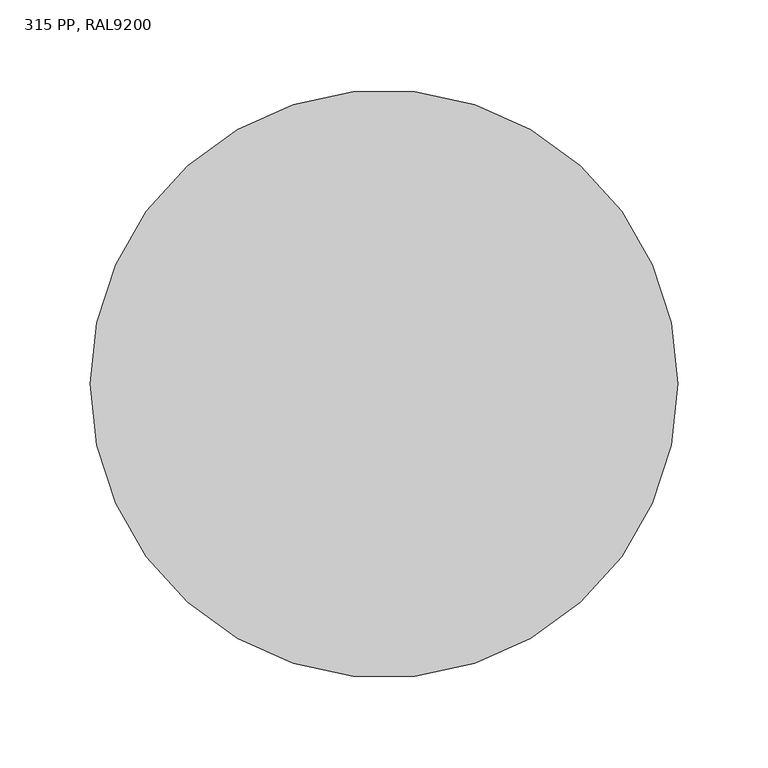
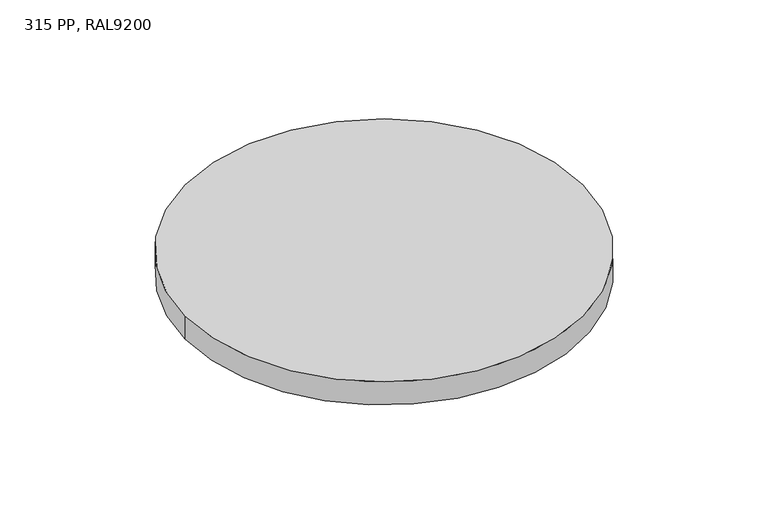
"""IFC4 building model written with IfcOpenShell, lengths in millimetres: pipe fitting geometry, Z_PIF_UN_Aquacell_NG_Round_Cover_Wavin_(nested) : 315 PP, RAL9200."""

from ifc_helpers import new_model, si_unit, point, frame, origin, origin_2d, place, context, project, spatial, circle_curve, trimmed, segment, composite_curve, outline, extrude, source, transform, mapped, element, save


def pipe_fitting_315_pp_ral9200_0fd825c0(model_context):
    return source(origin(), model_context, "Body", "SweptSolid", [
        extrude(outline(composite_curve([segment(trimmed(circle_curve(origin_2d(), 162.5), [point((-162.5, 0.0))], [point((162.5, 0.0))], False, "CARTESIAN"), True, "CONTINUOUS"), segment(trimmed(circle_curve(origin_2d(), 162.5), [point((162.5, 0.0))], [point((-162.5, 0.0))], False, "CARTESIAN"), True, "CONTINUOUS")], self_intersect=False)), frame((0.0, 0.0, -20.0), z_axis=(0.0, 0.0, 1.0), x_axis=(1.0, 0.0, 0.0)), (0.0, 0.0, 1.0), 20.0),
    ])


if __name__ == "__main__":
    model = new_model("IFC4")
    model_context = context("Model", 3, world=origin())
    ifc_project = project(units=[si_unit("LENGTHUNIT", "METRE", prefix="MILLI")], contexts=[model_context])
    site = spatial("IfcSite", under=ifc_project)
    building = spatial("IfcBuilding", under=site)
    placement = place(None, origin())
    pipe_fitting_315_pp_ral9200_shape = pipe_fitting_315_pp_ral9200_0fd825c0(model_context)
    element("IfcPipeFitting", 1, ObjectType="Z_PIF_UN_Aquacell_NG_Round_Cover_Wavin_(nested) : 315 PP, RAL9200", at=placement, inside=building, context=model_context, shape_type="MappedRepresentation", body=[
        mapped(pipe_fitting_315_pp_ral9200_shape, transform((0.0, 0.0, 0.0), x_axis=(1.0, 0.0, 0.0), y_axis=(0.0, 1.0, 0.0), z_axis=(0.0, 0.0, 1.0))),
    ])
    save(model, "model.ifc")
